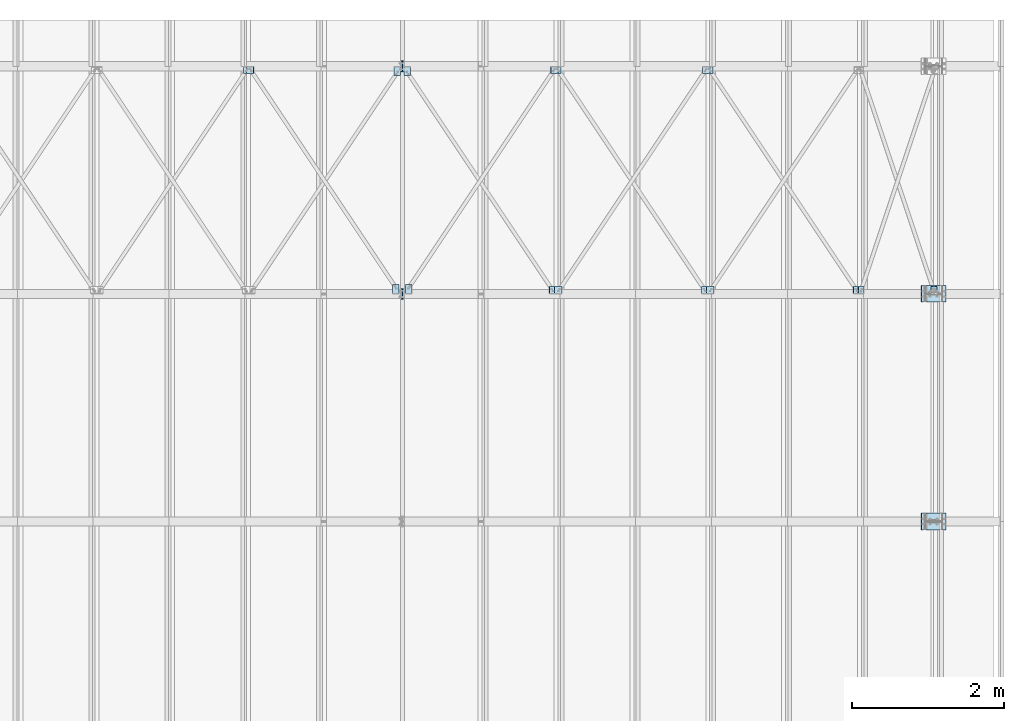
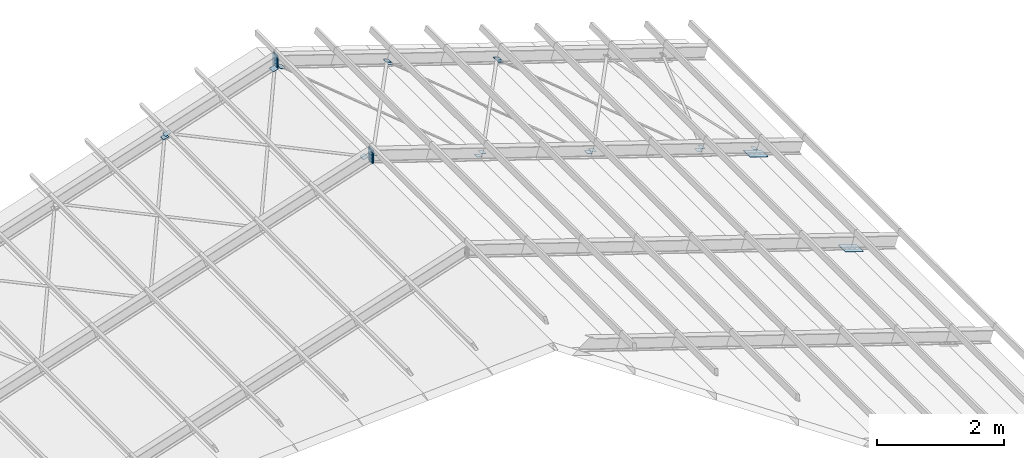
# One storey, part 8 of 53: 23 plates.
"""IFC4 building model written with IfcOpenShell, lengths in metres."""

from ifc_helpers import new_model, si_unit, frame, origin_with_axes, place, context, project, spatial, polyline, outline, extrude, type_object, element, save


model = new_model("IFC4")

# Units and contexts
model_context = context("Model", 3, precision=1e-05, world=origin_with_axes())
ifc_project = project(units=[si_unit("LENGTHUNIT", "METRE"), si_unit("AREAUNIT", "SQUARE_METRE"), si_unit("VOLUMEUNIT", "CUBIC_METRE"), si_unit("MASSUNIT", "GRAM", prefix="KILO"), si_unit("TIMEUNIT", "SECOND"), si_unit("PLANEANGLEUNIT", "RADIAN"), si_unit("SOLIDANGLEUNIT", "STERADIAN"), si_unit("THERMODYNAMICTEMPERATUREUNIT", "DEGREE_CELSIUS")], contexts=[model_context])

# Site, building, storey
placement_1 = place(None, origin_with_axes())
site = spatial("IfcSite", under=ifc_project, at=placement_1, Name="Italia", CompositionType="ELEMENT")
building = spatial("IfcBuilding", under=site, at=placement_1, Name="Capannone", CompositionType="ELEMENT")
storey_placement = place(None, frame((0.0, 0.0, 5.550000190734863), z_axis=(0.0, 0.0, 1.0), x_axis=(1.0, 0.0, 0.0)))
storey = spatial("IfcBuildingStorey", under=building, at=storey_placement, Name="Storey 1", CompositionType="ELEMENT", Elevation=5.550000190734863)

# Plates
plate_type_1 = type_object("IfcPlateType", Name="Collegamento -1056_-1090", PredefinedType="SHEET")
placement_2 = place(placement_1, origin_with_axes())
plate_1_placement = place(placement_2, origin_with_axes())
element("IfcPlate", 1, at=plate_1_placement, inside=storey, type_object=plate_type_1, Name="Collegamento -1056_-1090", context=model_context, shape_type="SweptSolid", body=[
    extrude(outline(polyline([(0.0, 0.0), (-0.0940008, 0.0), (-0.0940008, -0.101999), (9.53674e-07, -0.102001), (0.0, 0.0)])), frame((12.9421, 12.0971, 5.95285), z_axis=(0.312363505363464, 0.0, 0.949962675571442), x_axis=(0.0, 1.0, 0.0)), (0.0, 0.0, 1.0), 0.00500096),
])
plate_type_2 = type_object("IfcPlateType", Name="Collegamento -1056_0112", PredefinedType="SHEET")
plate_2_placement = place(placement_2, origin_with_axes())
element("IfcPlate", 2, at=plate_2_placement, inside=storey, type_object=plate_type_2, Name="Collegamento -1056_0112", context=model_context, shape_type="SweptSolid", body=[
    extrude(outline(polyline([(0.0, 0.0), (0.0940008, 0.0), (0.0940008, -0.0799999), (0.0, -0.0799999), (0.0, 0.0)])), frame((13.0099, 12.0971, 5.98847), z_axis=(-0.312075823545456, 0.0, -0.950057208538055), x_axis=(0.0, -1.0, 0.0)), (0.0, 0.0, 1.0), 0.00499946),
])
plate_type_3 = type_object("IfcPlateType", Name="Collegamento -1088_-1058", PredefinedType="SHEET")
plate_3_placement = place(placement_2, origin_with_axes())
element("IfcPlate", 3, at=plate_3_placement, inside=storey, type_object=plate_type_3, Name="Collegamento -1088_-1058", context=model_context, shape_type="SweptSolid", body=[
    extrude(outline(polyline([(0.0, 0.0), (-0.0939999, -1.90735e-06), (-0.0939989, -0.102002), (0.0, -0.102), (0.0, 0.0)])), frame((11.0062, 12.0971, 6.63103), z_axis=(0.312391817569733, 0.0, 0.949953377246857), x_axis=(0.0, 1.0, 0.0)), (0.0, 0.0, 1.0), 0.00500051),
])
plate_type_4 = type_object("IfcPlateType", Name="Collegamento -1088_-1122", PredefinedType="SHEET")
plate_4_placement = place(placement_2, origin_with_axes())
element("IfcPlate", 4, at=plate_4_placement, inside=storey, type_object=plate_type_4, Name="Collegamento -1088_-1122", context=model_context, shape_type="SweptSolid", body=[
    extrude(outline(polyline([(0.0, 0.0), (-0.0939999, -9.53674e-07), (-0.0940008, -0.101999), (-9.53674e-07, -0.101999), (0.0, 0.0)])), frame((10.9421, 12.0971, 6.61), z_axis=(0.312219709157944, 0.0, 0.950009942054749), x_axis=(0.0, 1.0, 0.0)), (0.0, 0.0, 1.0), 0.00500021),
])
plate_type_5 = type_object("IfcPlateType", Name="Collegamento -1090_-1056", PredefinedType="SHEET")
plate_5_placement = place(placement_2, origin_with_axes())
element("IfcPlate", 5, at=plate_5_placement, inside=storey, type_object=plate_type_5, Name="Collegamento -1090_-1056", context=model_context, shape_type="SweptSolid", body=[
    extrude(outline(polyline([(0.0, 0.0), (0.0940008, -9.53674e-07), (0.0940018, -0.102003), (0.0, -0.102001), (0.0, 0.0)])), frame((10.9938, 14.9029, 6.59303), z_axis=(0.312219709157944, 0.0, 0.950009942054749), x_axis=(0.0, 1.0, 0.0)), (0.0, 0.0, 1.0), 0.00500021),
])
plate_type_6 = type_object("IfcPlateType", Name="Collegamento -1090_-1120", PredefinedType="SHEET")
plate_6_placement = place(placement_2, origin_with_axes())
element("IfcPlate", 6, at=plate_6_placement, inside=storey, type_object=plate_type_6, Name="Collegamento -1090_-1120", context=model_context, shape_type="SweptSolid", body=[
    extrude(outline(polyline([(0.0, 0.0), (0.0940018, 0.0), (0.0940008, -0.102001), (1.90735e-06, -0.102001), (0.0, 0.0)])), frame((10.9546, 14.9029, 6.64799), z_axis=(0.312163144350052, 0.0, 0.950028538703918), x_axis=(0.0, 1.0, 0.0)), (0.0, 0.0, 1.0), 0.00500112),
])
plate_type_7 = type_object("IfcPlateType", Name="Collegamento -1120_-1090", PredefinedType="SHEET")
plate_7_placement = place(placement_2, origin_with_axes())
element("IfcPlate", 7, at=plate_7_placement, inside=storey, type_object=plate_type_7, Name="Collegamento -1120_-1090", context=model_context, shape_type="SweptSolid", body=[
    extrude(outline(polyline([(0.0, 0.0), (-0.0940008, 1.43051e-06), (-0.0939999, -0.102), (0.0, -0.102), (0.0, 0.0)])), frame((9.00624, 12.0971, 7.28817), z_axis=(0.312391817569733, 0.0, 0.949953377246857), x_axis=(0.0, 1.0, 0.0)), (0.0, 0.0, 1.0), 0.00500051),
])
plate_type_8 = type_object("IfcPlateType", Name="Collegamento -1120_-1147", PredefinedType="SHEET")
plate_8_placement = place(placement_2, origin_with_axes())
element("IfcPlate", 8, at=plate_8_placement, inside=storey, type_object=plate_type_8, Name="Collegamento -1120_-1147", context=model_context, shape_type="SweptSolid", body=[
    extrude(outline(polyline([(0.0, 0.0), (-0.0939999, 0.0), (-0.0939999, -0.101999), (0.0, -0.101999), (0.0, 0.0)])), frame((8.93588, 12.0971, 7.24813), z_axis=(0.312163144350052, 0.0, 0.950028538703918), x_axis=(0.0, 1.0, 0.0)), (0.0, 0.0, 1.0), 0.00500112),
])
plate_type_9 = type_object("IfcPlateType", Name="Collegamento -1121_-1087", PredefinedType="SHEET")
plate_9_placement = place(placement_2, origin_with_axes())
element("IfcPlate", 9, at=plate_9_placement, inside=storey, type_object=plate_type_9, Name="Collegamento -1121_-1087", context=model_context, shape_type="SweptSolid", body=[
    extrude(outline(polyline([(0.0, 0.0), (0.0940008, 0.0), (0.0940008, -0.102), (0.0, -0.102), (0.0, 0.0)])), frame((5.00156, 14.9029, 7.26442), z_axis=(0.312190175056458, 0.0, -0.950019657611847), x_axis=(0.0, 1.0, 0.0)), (0.0, 0.0, 1.0), 0.00499916),
])
plate_type_10 = type_object("IfcPlateType", Name="Collegamento -1121_-1146", PredefinedType="SHEET")
plate_10_placement = place(placement_2, origin_with_axes())
element("IfcPlate", 10, at=plate_10_placement, inside=storey, type_object=plate_type_10, Name="Collegamento -1121_-1146", context=model_context, shape_type="SweptSolid", body=[
    extrude(outline(polyline([(0.0, 0.0), (0.0940008, 0.0), (0.0939999, -0.102), (-9.53674e-07, -0.102), (0.0, 0.0)])), frame((5.04071, 14.9029, 7.31939), z_axis=(0.312161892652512, 0.0, -0.950028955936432), x_axis=(0.0, 1.0, 0.0)), (0.0, 0.0, 1.0), 0.00499961),
])
plate_type_11 = type_object("IfcPlateType", Name="Collegamento -1122_-1088", PredefinedType="SHEET")
plate_11_placement = place(placement_2, origin_with_axes())
element("IfcPlate", 11, at=plate_11_placement, inside=storey, type_object=plate_type_11, Name="Collegamento -1122_-1088", context=model_context, shape_type="SweptSolid", body=[
    extrude(outline(polyline([(0.0, 0.0), (0.0939999, -9.53674e-07), (0.0939999, -0.101999), (0.0, -0.101999), (0.0, 0.0)])), frame((8.99376, 14.9029, 7.25017), z_axis=(0.312104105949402, 0.0, 0.95004791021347), x_axis=(0.0, 1.0, 0.0)), (0.0, 0.0, 1.0), 0.00499901),
])
plate_type_12 = type_object("IfcPlateType", Name="Collegamento -1122_-1146", PredefinedType="SHEET")
plate_12_placement = place(placement_2, origin_with_axes())
element("IfcPlate", 12, at=plate_12_placement, inside=storey, type_object=plate_type_12, Name="Collegamento -1122_-1146", context=model_context, shape_type="SweptSolid", body=[
    extrude(outline(polyline([(0.0, 0.0), (0.0939999, -9.53674e-07), (0.0939999, -0.102), (0.0, -0.102), (0.0, 0.0)])), frame((8.9546, 14.9029, 7.30514), z_axis=(0.312219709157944, 0.0, 0.950009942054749), x_axis=(0.0, 1.0, 0.0)), (0.0, 0.0, 1.0), 0.00500021),
])
plate_type_13 = type_object("IfcPlateType", Name="Collegamenti -1142_-1128 -1143_-1130 -1144_-1132 -1145_-1134 -1146_-1136 -1147_-1138", PredefinedType="SHEET")
plate_13_placement = place(placement_2, origin_with_axes())
element("IfcPlate", 13, at=plate_13_placement, inside=storey, type_object=plate_type_13, Name="Collegamenti -1142_-1128 -1143_-1130 -1144_-1132 -1145_-1134 -1146_-1136 -1147_-1138", context=model_context, shape_type="SweptSolid", body=[
    extrude(outline(polyline([(0.0, 0.0), (-0.139999, 0.0), (-0.139999, 0.25262), (0.0, 0.25262), (0.0, 0.0)])), frame((7.015, 11.93, 7.84507), z_axis=(-1.0, 0.0, -3.1788415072e-05), x_axis=(0.0, -1.0, 0.0)), (0.0, 0.0, 1.0), 0.0150003),
])
plate_type_14 = type_object("IfcPlateType", Name="Collegamenti -1142_-1128 -1143_-1130 -1144_-1132 -1145_-1134 -1146_-1136 -1147_-1138", PredefinedType="SHEET")
plate_14_placement = place(placement_2, origin_with_axes())
element("IfcPlate", 14, at=plate_14_placement, inside=storey, type_object=plate_type_14, Name="Collegamenti -1142_-1128 -1143_-1130 -1144_-1132 -1145_-1134 -1146_-1136 -1147_-1138", context=model_context, shape_type="SweptSolid", body=[
    extrude(outline(polyline([(0.0, 0.0), (-0.139999, 0.0), (-0.139999, 0.252625), (0.0, 0.252625), (0.0, 0.0)])), frame((7.0, 11.93, 7.84507), z_axis=(-1.0, 0.0, 0.0), x_axis=(0.0, -1.0, 0.0)), (0.0, 0.0, 1.0), 0.0150003),
])
plate_type_15 = type_object("IfcPlateType", Name="Collegamenti -1142_-1128 -1143_-1130 -1144_-1132 -1145_-1134 -1146_-1136 -1147_-1138", PredefinedType="SHEET")
plate_15_placement = place(placement_2, origin_with_axes())
element("IfcPlate", 15, at=plate_15_placement, inside=storey, type_object=plate_type_15, Name="Collegamenti -1142_-1128 -1143_-1130 -1144_-1132 -1145_-1134 -1146_-1136 -1147_-1138", context=model_context, shape_type="SweptSolid", body=[
    extrude(outline(polyline([(0.0, 0.0), (-0.139999, 0.0), (-0.139999, 0.25262), (0.0, 0.25262), (0.0, 0.0)])), frame((7.015, 14.93, 7.84507), z_axis=(-1.0, 0.0, -3.1788415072e-05), x_axis=(0.0, -1.0, 0.0)), (0.0, 0.0, 1.0), 0.0150003),
])
plate_type_16 = type_object("IfcPlateType", Name="Collegamenti -1142_-1128 -1143_-1130 -1144_-1132 -1145_-1134 -1146_-1136 -1147_-1138", PredefinedType="SHEET")
plate_16_placement = place(placement_2, origin_with_axes())
element("IfcPlate", 16, at=plate_16_placement, inside=storey, type_object=plate_type_16, Name="Collegamenti -1142_-1128 -1143_-1130 -1144_-1132 -1145_-1134 -1146_-1136 -1147_-1138", context=model_context, shape_type="SweptSolid", body=[
    extrude(outline(polyline([(0.0, 0.0), (-0.139999, 0.0), (-0.139999, 0.252625), (0.0, 0.252625), (0.0, 0.0)])), frame((7.0, 14.93, 7.84507), z_axis=(-1.0, 0.0, 0.0), x_axis=(0.0, -1.0, 0.0)), (0.0, 0.0, 1.0), 0.0150003),
])
plate_type_17 = type_object("IfcPlateType", Name="Collegamento -1146_-1121", PredefinedType="SHEET")
plate_17_placement = place(placement_2, origin_with_axes())
element("IfcPlate", 17, at=plate_17_placement, inside=storey, type_object=plate_type_17, Name="Collegamento -1146_-1121", context=model_context, shape_type="SweptSolid", body=[
    extrude(outline(polyline([(0.0, 0.0), (-0.12, 0.0), (-0.119999, -0.0899992), (0.0, -0.0900002), (0.0, 0.0)])), frame((6.95488, 12.1231, 7.94833), z_axis=(0.312305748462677, 0.0, -0.949981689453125), x_axis=(0.0, 1.0, 0.0)), (0.0, 0.0, 1.0), 0.00500036),
])
plate_type_18 = type_object("IfcPlateType", Name="Collegamento -1146_-1122", PredefinedType="SHEET")
plate_18_placement = place(placement_2, origin_with_axes())
element("IfcPlate", 18, at=plate_18_placement, inside=storey, type_object=plate_type_18, Name="Collegamento -1146_-1122", context=model_context, shape_type="SweptSolid", body=[
    extrude(outline(polyline([(0.0, 0.0), (-0.12, 0.0), (-0.12, -0.0900002), (9.53674e-07, -0.0900002), (0.0, 0.0)])), frame((7.04044, 12.1231, 7.93408), z_axis=(0.312133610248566, 0.0, 0.950038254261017), x_axis=(0.0, 1.0, 0.0)), (0.0, 0.0, 1.0), 0.00500006),
])
plate_type_19 = type_object("IfcPlateType", Name="Collegamento -1147_-1119", PredefinedType="SHEET")
plate_19_placement = place(placement_2, origin_with_axes())
element("IfcPlate", 19, at=plate_19_placement, inside=storey, type_object=plate_type_19, Name="Collegamento -1147_-1119", context=model_context, shape_type="SweptSolid", body=[
    extrude(outline(polyline([(0.0, 0.0), (0.120001, 0.0), (0.12, -0.0900011), (-9.53674e-07, -0.0900011), (0.0, 0.0)])), frame((6.97361, 14.8769, 7.89133), z_axis=(0.312133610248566, 0.0, -0.950038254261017), x_axis=(0.0, 1.0, 0.0)), (0.0, 0.0, 1.0), 0.00500006),
])
plate_type_20 = type_object("IfcPlateType", Name="Collegamento -1147_-1120", PredefinedType="SHEET")
plate_20_placement = place(placement_2, origin_with_axes())
element("IfcPlate", 20, at=plate_20_placement, inside=storey, type_object=plate_type_20, Name="Collegamento -1147_-1120", context=model_context, shape_type="SweptSolid", body=[
    extrude(outline(polyline([(0.0, 0.0), (0.12, 0.0), (0.120001, -0.0900002), (0.0, -0.0900002), (0.0, 0.0)])), frame((7.02171, 14.8769, 7.87707), z_axis=(0.312163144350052, 0.0, 0.950028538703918), x_axis=(0.0, 1.0, 0.0)), (0.0, 0.0, 1.0), 0.00500112),
])
plate_type_21 = type_object("IfcPlateType", Name="Collegamenti 0102_0002 0104_0004 0106_0006 0108_0008 0110_0010 0112_0012", PredefinedType="SHEET")
plate_21_placement = place(placement_2, origin_with_axes())
element("IfcPlate", 21, at=plate_21_placement, inside=storey, type_object=plate_type_21, Name="Collegamenti 0102_0002 0104_0004 0106_0006 0108_0008 0110_0010 0112_0012", context=model_context, shape_type="SweptSolid", body=[
    extrude(outline(polyline([(0.0, 0.0), (-0.219999, 0.0), (-0.219999, 0.34504), (0.0, 0.34504), (0.0, 0.0)])), frame((14.1639, 9.11, 5.48036), z_axis=(0.3121717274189, 0.0, 0.950025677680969), x_axis=(0.0, 1.0, 0.0)), (0.0, 0.0, 1.0), 0.0149999),
])
plate_type_22 = type_object("IfcPlateType", Name="Collegamenti 0102_0002 0104_0004 0106_0006 0108_0008 0110_0010 0112_0012", PredefinedType="SHEET")
plate_22_placement = place(placement_2, origin_with_axes())
element("IfcPlate", 22, at=plate_22_placement, inside=storey, type_object=plate_type_22, Name="Collegamenti 0102_0002 0104_0004 0106_0006 0108_0008 0110_0010 0112_0012", context=model_context, shape_type="SweptSolid", body=[
    extrude(outline(polyline([(0.0, 0.0), (-0.219999, 0.0), (-0.219999, 0.34504), (0.0, 0.34504), (0.0, 0.0)])), frame((14.1639, 12.11, 5.48036), z_axis=(0.3121717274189, 0.0, 0.950025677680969), x_axis=(0.0, 1.0, 0.0)), (0.0, 0.0, 1.0), 0.0149999),
])
plate_type_23 = type_object("IfcPlateType", Name="Collegamento 0110_-1058", PredefinedType="SHEET")
plate_23_placement = place(placement_2, origin_with_axes())
element("IfcPlate", 23, at=plate_23_placement, inside=storey, type_object=plate_type_23, Name="Collegamento 0110_-1058", context=model_context, shape_type="SweptSolid", body=[
    extrude(outline(polyline([(0.0, 0.0), (0.0939999, 9.53674e-07), (0.0939999, -0.0800028), (0.0, -0.0800009), (0.0, 0.0)])), frame((13.9686, 12.0975, 5.63137), z_axis=(-0.311962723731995, 0.0, -0.95009434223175), x_axis=(0.0, -1.0, 0.0)), (0.0, 0.0, 1.0), 0.00500127),
])

save(model, "model.ifc")
